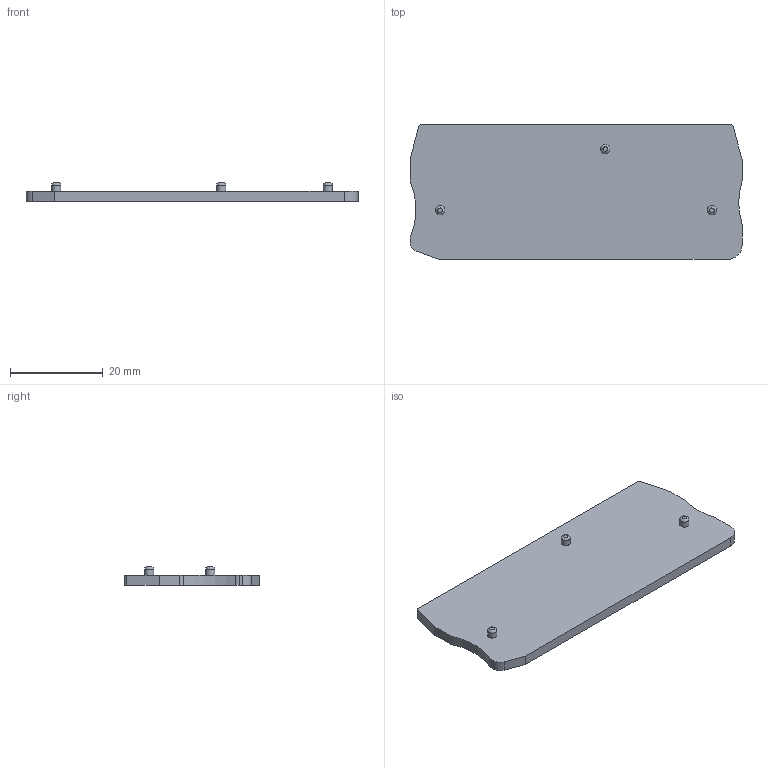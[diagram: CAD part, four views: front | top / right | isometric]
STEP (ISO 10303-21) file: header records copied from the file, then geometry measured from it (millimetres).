
FILE_DESCRIPTION(/* description */ (''),/* implementation_level */ '2;1');
FILE_NAME(/* name */ '815264_MTS_PTO.stp',/* time_stamp */ '2019-03-14T17:26:30+08:00',/* author */ (''),/* organization */ (''),/* preprocessor_version */ 'ST-DEVELOPER v11',/* originating_system */ 'SIEMENS UGS NX 6.0',/* authorisation */ '');
FILE_SCHEMA (('AUTOMOTIVE_DESIGN { 1 0 10303 214 1 1 1 1 }'));
Length unit declared in the file: millimetre
Products named in the file (1): 815264_MTS_PTO
Bounding box: 71.6 x 29 x 4 mm (x, y, z)
Volume: 4498.8 mm3; surface area: 4532.7 mm2
Topology: 1 solids, 1 shells, 30 faces, 72 edges, 47 vertices
Faces by surface type: plane 14, cylinder 13, bspline 3
Full cylindrical faces by diameter (mm): 2 x3
Entity records: 944 total; most frequent: CARTESIAN_POINT 225, DIRECTION 151, ORIENTED_EDGE 132, EDGE_CURVE 66, AXIS2_PLACEMENT_3D 57, VERTEX_POINT 47, EDGE_LOOP 39, LINE 37
